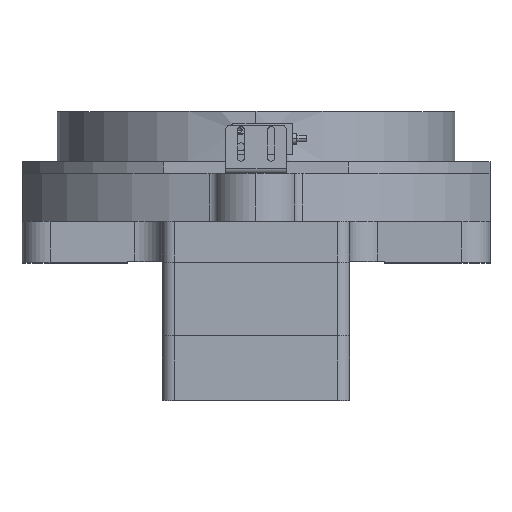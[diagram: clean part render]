
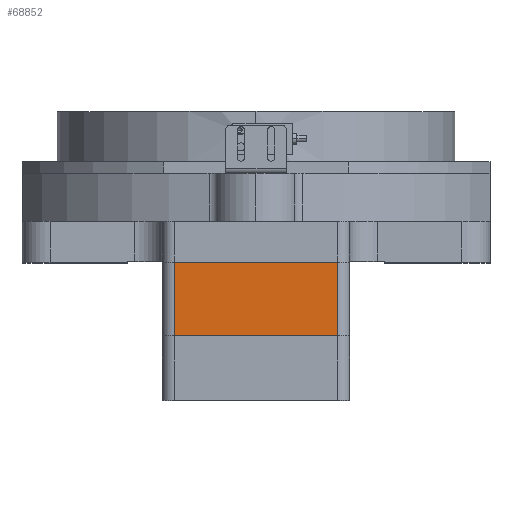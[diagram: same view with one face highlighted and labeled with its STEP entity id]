
A CAD part, top view. The second image highlights one B-rep face of the part: STEP entity #68852.
In plain terms, the highlighted planar face has unit normal (0, 0, 1).
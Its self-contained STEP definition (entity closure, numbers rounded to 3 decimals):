
#68220 = PLANE('',#68221);
#68221 = AXIS2_PLACEMENT_3D('',#68222,#68223,#68224);
#68222 = CARTESIAN_POINT('',(-75.36,-32.246,100.));
#68223 = DIRECTION('',(0.,-1.,0.));
#68224 = DIRECTION('',(0.,0.,-1.));
#68301 = PLANE('',#68302);
#68302 = AXIS2_PLACEMENT_3D('',#68303,#68304,#68305);
#68303 = CARTESIAN_POINT('',(-20.36,-0.746,167.));
#68304 = DIRECTION('',(0.,-1.,0.));
#68305 = DIRECTION('',(0.,0.,-1.));
#68411 = VERTEX_POINT('',#68412);
#68412 = CARTESIAN_POINT('',(-110.36,-0.746,242.5));
#68427 = CYLINDRICAL_SURFACE('',#68428,5.);
#68428 = AXIS2_PLACEMENT_3D('',#68429,#68430,#68431);
#68429 = CARTESIAN_POINT('',(-110.36,42.254,237.5));
#68430 = DIRECTION('',(0.,-1.,0.));
#68431 = DIRECTION('',(0.,0.,-1.));
#68439 = EDGE_CURVE('',#68440,#68411,#68442,.T.);
#68440 = VERTEX_POINT('',#68441);
#68441 = CARTESIAN_POINT('',(-40.36,-0.746,242.5));
#68442 = SURFACE_CURVE('',#68443,(#68447,#68454),.PCURVE_S1.);
#68443 = LINE('',#68444,#68445);
#68444 = CARTESIAN_POINT('',(-20.36,-0.746,242.5));
#68445 = VECTOR('',#68446,1.);
#68446 = DIRECTION('',(-1.,0.,0.));
#68447 = PCURVE('',#68301,#68448);
#68448 = DEFINITIONAL_REPRESENTATION('',(#68449),#68453);
#68449 = LINE('',#68450,#68451);
#68450 = CARTESIAN_POINT('',(-75.5,0.));
#68451 = VECTOR('',#68452,1.);
#68452 = DIRECTION('',(0.,-1.));
#68453 = ( GEOMETRIC_REPRESENTATION_CONTEXT(2) 
PARAMETRIC_REPRESENTATION_CONTEXT() REPRESENTATION_CONTEXT('2D SPACE',''
  ) );
#68454 = PCURVE('',#68455,#68460);
#68455 = PLANE('',#68456);
#68456 = AXIS2_PLACEMENT_3D('',#68457,#68458,#68459);
#68457 = CARTESIAN_POINT('',(-110.36,42.254,242.5));
#68458 = DIRECTION('',(0.,0.,-1.));
#68459 = DIRECTION('',(0.,1.,0.));
#68460 = DEFINITIONAL_REPRESENTATION('',(#68461),#68465);
#68461 = LINE('',#68462,#68463);
#68462 = CARTESIAN_POINT('',(-43.,90.));
#68463 = VECTOR('',#68464,1.);
#68464 = DIRECTION('',(0.,-1.));
#68465 = ( GEOMETRIC_REPRESENTATION_CONTEXT(2) 
PARAMETRIC_REPRESENTATION_CONTEXT() REPRESENTATION_CONTEXT('2D SPACE',''
  ) );
#68484 = CYLINDRICAL_SURFACE('',#68485,5.);
#68485 = AXIS2_PLACEMENT_3D('',#68486,#68487,#68488);
#68486 = CARTESIAN_POINT('',(-40.36,42.254,237.5));
#68487 = DIRECTION('',(0.,-1.,0.));
#68488 = DIRECTION('',(0.,0.,-1.));
#68802 = EDGE_CURVE('',#68803,#68411,#68805,.T.);
#68803 = VERTEX_POINT('',#68804);
#68804 = CARTESIAN_POINT('',(-110.36,-32.246,242.5));
#68805 = SURFACE_CURVE('',#68806,(#68810,#68817),.PCURVE_S1.);
#68806 = LINE('',#68807,#68808);
#68807 = CARTESIAN_POINT('',(-110.36,42.254,242.5));
#68808 = VECTOR('',#68809,1.);
#68809 = DIRECTION('',(0.,1.,0.));
#68810 = PCURVE('',#68427,#68811);
#68811 = DEFINITIONAL_REPRESENTATION('',(#68812),#68816);
#68812 = LINE('',#68813,#68814);
#68813 = CARTESIAN_POINT('',(3.142,0.));
#68814 = VECTOR('',#68815,1.);
#68815 = DIRECTION('',(0.,-1.));
#68816 = ( GEOMETRIC_REPRESENTATION_CONTEXT(2) 
PARAMETRIC_REPRESENTATION_CONTEXT() REPRESENTATION_CONTEXT('2D SPACE',''
  ) );
#68817 = PCURVE('',#68455,#68818);
#68818 = DEFINITIONAL_REPRESENTATION('',(#68819),#68823);
#68819 = LINE('',#68820,#68821);
#68820 = CARTESIAN_POINT('',(0.,0.));
#68821 = VECTOR('',#68822,1.);
#68822 = DIRECTION('',(1.,0.));
#68823 = ( GEOMETRIC_REPRESENTATION_CONTEXT(2) 
PARAMETRIC_REPRESENTATION_CONTEXT() REPRESENTATION_CONTEXT('2D SPACE',''
  ) );
#68852 = ADVANCED_FACE('',(#68853),#68455,.F.);
#68853 = FACE_BOUND('',#68854,.T.);
#68854 = EDGE_LOOP('',(#68855,#68878,#68879,#68880));
#68855 = ORIENTED_EDGE('',*,*,#68856,.F.);
#68856 = EDGE_CURVE('',#68440,#68857,#68859,.T.);
#68857 = VERTEX_POINT('',#68858);
#68858 = CARTESIAN_POINT('',(-40.36,-32.246,242.5));
#68859 = SURFACE_CURVE('',#68860,(#68864,#68871),.PCURVE_S1.);
#68860 = LINE('',#68861,#68862);
#68861 = CARTESIAN_POINT('',(-40.36,42.254,242.5));
#68862 = VECTOR('',#68863,1.);
#68863 = DIRECTION('',(-0.,-1.,0.));
#68864 = PCURVE('',#68455,#68865);
#68865 = DEFINITIONAL_REPRESENTATION('',(#68866),#68870);
#68866 = LINE('',#68867,#68868);
#68867 = CARTESIAN_POINT('',(0.,70.));
#68868 = VECTOR('',#68869,1.);
#68869 = DIRECTION('',(-1.,0.));
#68870 = ( GEOMETRIC_REPRESENTATION_CONTEXT(2) 
PARAMETRIC_REPRESENTATION_CONTEXT() REPRESENTATION_CONTEXT('2D SPACE',''
  ) );
#68871 = PCURVE('',#68484,#68872);
#68872 = DEFINITIONAL_REPRESENTATION('',(#68873),#68877);
#68873 = LINE('',#68874,#68875);
#68874 = CARTESIAN_POINT('',(3.142,0.));
#68875 = VECTOR('',#68876,1.);
#68876 = DIRECTION('',(0.,1.));
#68877 = ( GEOMETRIC_REPRESENTATION_CONTEXT(2) 
PARAMETRIC_REPRESENTATION_CONTEXT() REPRESENTATION_CONTEXT('2D SPACE',''
  ) );
#68878 = ORIENTED_EDGE('',*,*,#68439,.T.);
#68879 = ORIENTED_EDGE('',*,*,#68802,.F.);
#68880 = ORIENTED_EDGE('',*,*,#68881,.F.);
#68881 = EDGE_CURVE('',#68857,#68803,#68882,.T.);
#68882 = SURFACE_CURVE('',#68883,(#68887,#68894),.PCURVE_S1.);
#68883 = LINE('',#68884,#68885);
#68884 = CARTESIAN_POINT('',(-110.36,-32.246,242.5));
#68885 = VECTOR('',#68886,1.);
#68886 = DIRECTION('',(-1.,0.,0.));
#68887 = PCURVE('',#68455,#68888);
#68888 = DEFINITIONAL_REPRESENTATION('',(#68889),#68893);
#68889 = LINE('',#68890,#68891);
#68890 = CARTESIAN_POINT('',(-74.5,0.));
#68891 = VECTOR('',#68892,1.);
#68892 = DIRECTION('',(0.,-1.));
#68893 = ( GEOMETRIC_REPRESENTATION_CONTEXT(2) 
PARAMETRIC_REPRESENTATION_CONTEXT() REPRESENTATION_CONTEXT('2D SPACE',''
  ) );
#68894 = PCURVE('',#68220,#68895);
#68895 = DEFINITIONAL_REPRESENTATION('',(#68896),#68900);
#68896 = LINE('',#68897,#68898);
#68897 = CARTESIAN_POINT('',(-142.5,-35.));
#68898 = VECTOR('',#68899,1.);
#68899 = DIRECTION('',(0.,-1.));
#68900 = ( GEOMETRIC_REPRESENTATION_CONTEXT(2) 
PARAMETRIC_REPRESENTATION_CONTEXT() REPRESENTATION_CONTEXT('2D SPACE',''
  ) );
